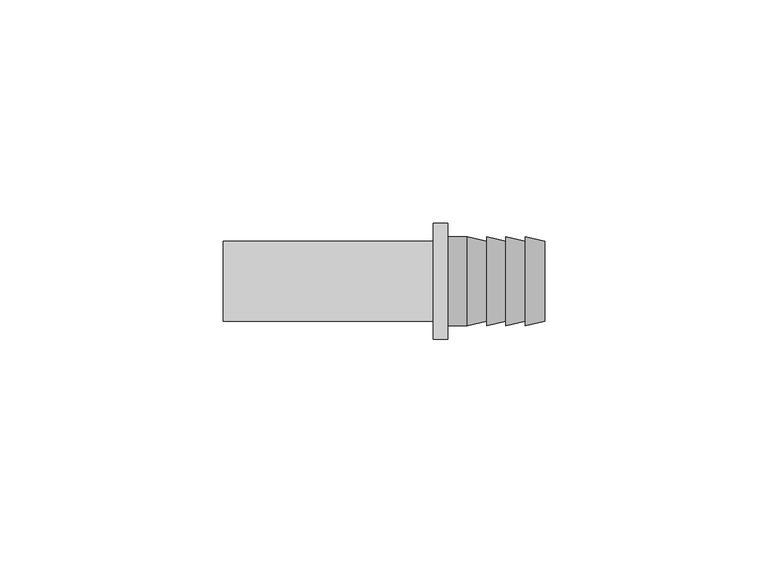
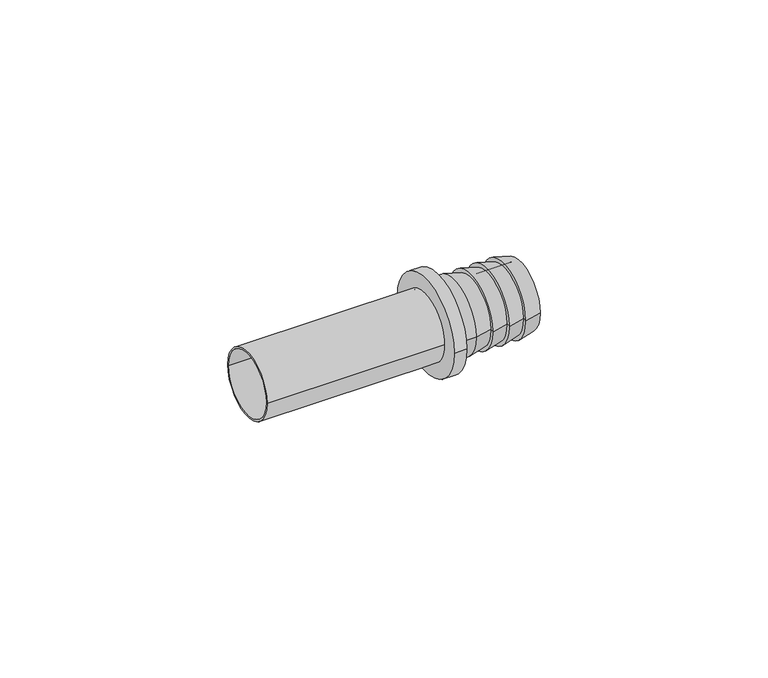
"""IFC4 building model written with IfcOpenShell, lengths in millimetres: pipe fitting geometry, VALTEC_VTi.909.I_Вставка с переходом на аксиальное соединение : VTi.909.I."""

from ifc_helpers import new_model, si_unit, point, frame, origin, origin_2d, place, context, project, spatial, polyline, circle_curve, trimmed, segment, composite_curve, outline, extrude, source, transform, mapped, element, save
from ifc_brep_helpers import plane_surface, cylinder_surface, revolved_surface, advanced_brep


def pipe_fitting_ee664f49(model_context):
    return source(origin(), model_context, "Body", "SolidModel", [
        advanced_brep(
        [(54.632, -10.0, 0.0), (54.632, 10.0, 0.0), (58.974, 9.0, 0.0), (58.974, -9.0, 0.0), (50.29, -10.0, 0.0), (50.29, 10.0, 0.0), (50.29, -7.5, 0.0), (50.29, 7.5, 0.0), (72.0, -9.0, 0.0), (72.0, 9.0, 0.0), (72.0, 7.5, 0.0), (72.0, -7.5, 0.0), (67.658, -10.0, 0.0), (67.658, 10.0, 0.0), (67.658, -9.0, 0.0), (67.658, 9.0, 0.0), (63.316, -10.0, 0.0), (63.316, 10.0, 0.0), (63.316, -9.0, 0.0), (63.316, 9.0, 0.0), (58.974, -10.0, 0.0), (58.974, 10.0, 0.0)],
        [
            (0, 1, circle_curve(frame((54.632, 0.0, 0.0), z_axis=(1.0, 0.0, 0.0), x_axis=(0.0, 1.0, 0.0)), 10.0)),
            (1, 2),
            (2, 3, circle_curve(frame((58.974, 0.0, 0.0), z_axis=(-1.0, 0.0, 0.0), x_axis=(0.0, 1.0, 0.0)), 9.0)),
            (3, 0),
            (1, 0, circle_curve(frame((54.632, 0.0, 0.0), z_axis=(1.0, 0.0, 0.0), x_axis=(0.0, 1.0, 0.0)), 10.0)),
            (3, 2, circle_curve(frame((58.974, 0.0, 0.0), z_axis=(-1.0, 0.0, 0.0), x_axis=(0.0, 1.0, 0.0)), 9.0)),
            (4, 5, circle_curve(frame((50.29, 0.0, 0.0), z_axis=(1.0, 0.0, 0.0), x_axis=(0.0, 1.0, 0.0)), 10.0)),
            (5, 1),
            (0, 4),
            (5, 4, circle_curve(frame((50.29, 0.0, 0.0), z_axis=(1.0, 0.0, 0.0), x_axis=(0.0, 1.0, 0.0)), 10.0)),
            (6, 7, circle_curve(frame((50.29, 0.0, 0.0), z_axis=(1.0, 0.0, 0.0), x_axis=(0.0, 1.0, 0.0)), 7.5)),
            (7, 5),
            (4, 6),
            (7, 6, circle_curve(frame((50.29, 0.0, 0.0), z_axis=(1.0, 0.0, 0.0), x_axis=(0.0, 1.0, 0.0)), 7.5)),
            (8, 9, circle_curve(frame((72.0, 0.0, 0.0), z_axis=(1.0, 0.0, 0.0), x_axis=(0.0, 1.0, 0.0)), 9.0)),
            (9, 10),
            (10, 11, circle_curve(frame((72.0, 0.0, 0.0), z_axis=(-1.0, 0.0, 0.0), x_axis=(0.0, 1.0, 0.0)), 7.5)),
            (11, 8),
            (9, 8, circle_curve(frame((72.0, 0.0, 0.0), z_axis=(1.0, 0.0, 0.0), x_axis=(0.0, 1.0, 0.0)), 9.0)),
            (11, 10, circle_curve(frame((72.0, 0.0, 0.0), z_axis=(-1.0, 0.0, 0.0), x_axis=(0.0, 1.0, 0.0)), 7.5)),
            (12, 13, circle_curve(frame((67.658, 0.0, 0.0), z_axis=(1.0, 0.0, 0.0), x_axis=(0.0, 1.0, 0.0)), 10.0)),
            (13, 9),
            (8, 12),
            (13, 12, circle_curve(frame((67.658, 0.0, 0.0), z_axis=(1.0, 0.0, 0.0), x_axis=(0.0, 1.0, 0.0)), 10.0)),
            (14, 15, circle_curve(frame((67.658, 0.0, 0.0), z_axis=(1.0, 0.0, 0.0), x_axis=(0.0, 1.0, 0.0)), 9.0)),
            (15, 13),
            (12, 14),
            (15, 14, circle_curve(frame((67.658, 0.0, 0.0), z_axis=(1.0, 0.0, 0.0), x_axis=(0.0, 1.0, 0.0)), 9.0)),
            (16, 17, circle_curve(frame((63.316, 0.0, 0.0), z_axis=(1.0, 0.0, 0.0), x_axis=(0.0, 1.0, 0.0)), 10.0)),
            (17, 15),
            (14, 16),
            (17, 16, circle_curve(frame((63.316, 0.0, 0.0), z_axis=(1.0, 0.0, 0.0), x_axis=(0.0, 1.0, 0.0)), 10.0)),
            (18, 19, circle_curve(frame((63.316, 0.0, 0.0), z_axis=(1.0, 0.0, 0.0), x_axis=(0.0, 1.0, 0.0)), 9.0)),
            (19, 17),
            (16, 18),
            (19, 18, circle_curve(frame((63.316, 0.0, 0.0), z_axis=(1.0, 0.0, 0.0), x_axis=(0.0, 1.0, 0.0)), 9.0)),
            (20, 21, circle_curve(frame((58.974, 0.0, 0.0), z_axis=(1.0, 0.0, 0.0), x_axis=(0.0, 1.0, 0.0)), 10.0)),
            (21, 19),
            (18, 20),
            (21, 20, circle_curve(frame((58.974, 0.0, 0.0), z_axis=(1.0, 0.0, 0.0), x_axis=(0.0, 1.0, 0.0)), 10.0)),
            (2, 21),
            (20, 3),
            (10, 7),
            (6, 11),
        ],
        [
            revolved_surface(polyline([(58.974, 9.0, 0.0), (54.632, 10.0, 0.0)]), (70.6579616, 0.0, 0.0), (-1.0, 0.0, 0.0)),
            cylinder_surface(frame((70.6579616, 0.0, 0.0), z_axis=(-1.0, 0.0, 0.0), x_axis=(0.0, 1.0, 0.0)), 10.0),
            plane_surface(frame((50.29, 0.0, 0.0), z_axis=(-1.0, 0.0, 0.0), x_axis=(0.0, 1.0, 0.0))),
            plane_surface(frame((72.0, 0.0, 0.0), z_axis=(1.0, 0.0, 0.0), x_axis=(0.0, 1.0, 0.0))),
            revolved_surface(polyline([(72.0, 9.0, 0.0), (67.658, 10.0, 0.0)]), (70.6579616, 0.0, 0.0), (-1.0, 0.0, 0.0)),
            plane_surface(frame((67.658, 0.0, 0.0), z_axis=(-1.0, 0.0, 0.0), x_axis=(0.0, 1.0, 0.0))),
            revolved_surface(polyline([(67.658, 9.0, 0.0), (63.316, 10.0, 0.0)]), (70.6579616, 0.0, 0.0), (-1.0, 0.0, 0.0)),
            plane_surface(frame((63.316, 0.0, 0.0), z_axis=(-1.0, 0.0, 0.0), x_axis=(0.0, 1.0, 0.0))),
            revolved_surface(polyline([(63.316, 9.0, 0.0), (58.974, 10.0, 0.0)]), (70.6579616, 0.0, 0.0), (-1.0, 0.0, 0.0)),
            plane_surface(frame((58.974, 0.0, 0.0), z_axis=(-1.0, 0.0, 0.0), x_axis=(0.0, 1.0, 0.0))),
            revolved_surface(polyline([(50.29, 7.5, 0.0), (72.0, 7.5, 0.0)]), (70.6579616, 0.0, 0.0), (-1.0, 0.0, 0.0)),
        ],
        [
            (0, [[1, 2, 3, 4]]),
            (0, [[5, -4, 6, -2]]),
            (1, [[7, 8, -1, 9]]),
            (1, [[10, -9, -5, -8]]),
            (2, [[11, 12, -7, 13]]),
            (2, [[14, -13, -10, -12]]),
            (3, [[15, 16, 17, 18]]),
            (3, [[19, -18, 20, -16]]),
            (4, [[21, 22, -15, 23]]),
            (4, [[24, -23, -19, -22]]),
            (5, [[25, 26, -21, 27]]),
            (5, [[28, -27, -24, -26]]),
            (6, [[29, 30, -25, 31]]),
            (6, [[32, -31, -28, -30]]),
            (7, [[33, 34, -29, 35]]),
            (7, [[36, -35, -32, -34]]),
            (8, [[37, 38, -33, 39]]),
            (8, [[40, -39, -36, -38]]),
            (9, [[-3, 41, -37, 42]]),
            (9, [[-6, -42, -40, -41]]),
            (10, [[-17, 43, -11, 44]]),
            (10, [[-20, -44, -14, -43]]),
        ],
    ),
        extrude(outline(composite_curve([segment(trimmed(circle_curve(origin_2d(), 13.0), [point((-13.0, 0.0))], [point((13.0, 0.0))], False, "CARTESIAN"), True, "CONTINUOUS"), segment(trimmed(circle_curve(origin_2d(), 13.0), [point((13.0, 0.0))], [point((-13.0, 0.0))], False, "CARTESIAN"), True, "CONTINUOUS")], self_intersect=False), holes=[composite_curve([segment(trimmed(circle_curve(origin_2d(), 8.5), [point((-8.5, 0.0))], [point((8.5, 0.0))], True, "CARTESIAN"), True, "CONTINUOUS"), segment(trimmed(circle_curve(origin_2d(), 8.5), [point((8.5, 0.0))], [point((-8.5, 0.0))], True, "CARTESIAN"), True, "CONTINUOUS")], self_intersect=False)]), frame((47.0, 0.0, 0.0), z_axis=(1.0, 0.0, 0.0), x_axis=(0.0, 1.0, 0.0)), (0.0, 0.0, 1.0), 3.29),
        extrude(outline(composite_curve([segment(trimmed(circle_curve(origin_2d(), 9.0), [point((-9.0, 0.0))], [point((9.0, 0.0))], False, "CARTESIAN"), True, "CONTINUOUS"), segment(trimmed(circle_curve(origin_2d(), 9.0), [point((9.0, 0.0))], [point((-9.0, 0.0))], False, "CARTESIAN"), True, "CONTINUOUS")], self_intersect=False), holes=[composite_curve([segment(trimmed(circle_curve(origin_2d(), 8.5), [point((-8.5, 0.0))], [point((8.5, 0.0))], True, "CARTESIAN"), True, "CONTINUOUS"), segment(trimmed(circle_curve(origin_2d(), 8.5), [point((8.5, 0.0))], [point((-8.5, 0.0))], True, "CARTESIAN"), True, "CONTINUOUS")], self_intersect=False)]), frame((0.0, 0.0, 0.0), z_axis=(1.0, 0.0, 0.0), x_axis=(0.0, 1.0, 0.0)), (0.0, 0.0, 1.0), 47.0),
    ])


if __name__ == "__main__":
    model = new_model("IFC4")
    model_context = context("Model", 3, world=origin())
    ifc_project = project(units=[si_unit("LENGTHUNIT", "METRE", prefix="MILLI")], contexts=[model_context])
    site = spatial("IfcSite", under=ifc_project)
    building = spatial("IfcBuilding", under=site)
    placement = place(None, origin())
    pipe_fitting_shape = pipe_fitting_ee664f49(model_context)
    element("IfcPipeFitting", 1, ObjectType="VALTEC_VTi.909.I_Вставка с переходом на аксиальное соединение : VTi.909.I", at=placement, inside=building, context=model_context, shape_type="MappedRepresentation", body=[
        mapped(pipe_fitting_shape, transform((0.0, 0.0, 0.0), x_axis=(1.0, 0.0, 0.0), y_axis=(0.0, 1.0, 0.0), z_axis=(0.0, 0.0, 1.0))),
    ])
    save(model, "model.ifc")
